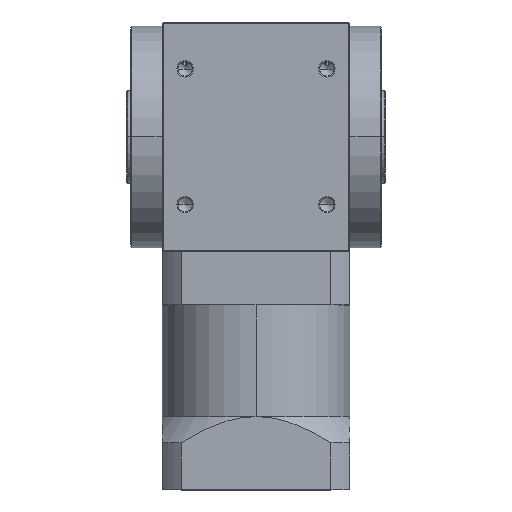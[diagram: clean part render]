
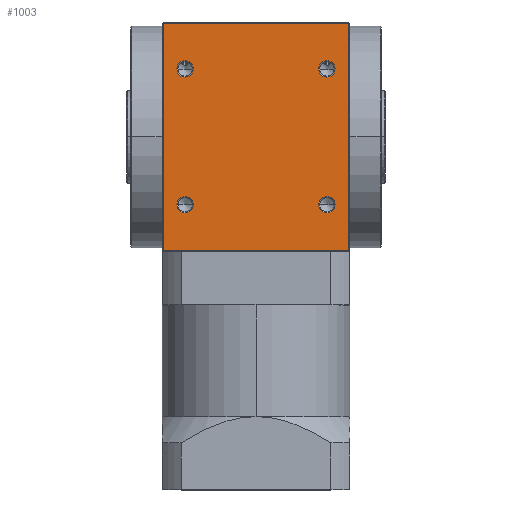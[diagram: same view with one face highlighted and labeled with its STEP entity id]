
A CAD part, top view. The second image highlights one B-rep face of the part: STEP entity #1003.
In plain terms, the highlighted planar face has unit normal (0, 0, 1).
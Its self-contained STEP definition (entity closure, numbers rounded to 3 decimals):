
#23 = VECTOR ( 'NONE', #4695, 1000. ) ;
#41 = VERTEX_POINT ( 'NONE', #1899 ) ;
#73 = VERTEX_POINT ( 'NONE', #2977 ) ;
#123 = EDGE_CURVE ( 'NONE', #4324, #7314, #9084, .T. ) ;
#153 = DIRECTION ( 'NONE',  ( 0., -1., 0. ) ) ;
#209 = EDGE_CURVE ( 'NONE', #7691, #73, #7975, .T. ) ;
#214 = DIRECTION ( 'NONE',  ( 1., 0., 0. ) ) ;
#330 = CARTESIAN_POINT ( 'NONE',  ( -34., -32.5, 55. ) ) ;
#460 = DIRECTION ( 'NONE',  ( 0., 0., 1. ) ) ;
#467 = DIRECTION ( 'NONE',  ( 1., 0., 0. ) ) ;
#655 = ORIENTED_EDGE ( 'NONE', *, *, #8178, .F. ) ;
#719 = ORIENTED_EDGE ( 'NONE', *, *, #209, .F. ) ;
#859 = ORIENTED_EDGE ( 'NONE', *, *, #7412, .F. ) ;
#888 = CARTESIAN_POINT ( 'NONE',  ( -34., 32.5, 55. ) ) ;
#1003 = ADVANCED_FACE ( 'NONE', ( #2971, #4887, #6765, #1088, #8411 ), #4355, .F. ) ;
#1057 = DIRECTION ( 'NONE',  ( 1., 0., 0. ) ) ;
#1088 = FACE_BOUND ( 'NONE', #8006, .T. ) ;
#1091 = DIRECTION ( 'NONE',  ( 0., 0., 1. ) ) ;
#1128 = EDGE_LOOP ( 'NONE', ( #2319, #4685 ) ) ;
#1149 = CIRCLE ( 'NONE', #8286, 3.9 ) ;
#1589 = DIRECTION ( 'NONE',  ( 1., 0., 0. ) ) ;
#1665 = AXIS2_PLACEMENT_3D ( 'NONE', #8975, #4763, #467 ) ;
#1680 = DIRECTION ( 'NONE',  ( 1., 0., 0. ) ) ;
#1725 = DIRECTION ( 'NONE',  ( 0., 0., 1. ) ) ;
#1833 = AXIS2_PLACEMENT_3D ( 'NONE', #3665, #8616, #4383 ) ;
#1899 = CARTESIAN_POINT ( 'NONE',  ( -37.9, -32.5, 55. ) ) ;
#1981 = AXIS2_PLACEMENT_3D ( 'NONE', #6180, #460, #214 ) ;
#2123 = ORIENTED_EDGE ( 'NONE', *, *, #3428, .F. ) ;
#2132 = CARTESIAN_POINT ( 'NONE',  ( -37.9, 32.5, 55. ) ) ;
#2209 = EDGE_LOOP ( 'NONE', ( #6207, #2123 ) ) ;
#2318 = ORIENTED_EDGE ( 'NONE', *, *, #4358, .T. ) ;
#2319 = ORIENTED_EDGE ( 'NONE', *, *, #8935, .F. ) ;
#2385 = CARTESIAN_POINT ( 'NONE',  ( 37.9, 32.5, 55. ) ) ;
#2673 = DIRECTION ( 'NONE',  ( 1., 0., 0. ) ) ;
#2845 = CIRCLE ( 'NONE', #8784, 3.9 ) ;
#2947 = CARTESIAN_POINT ( 'NONE',  ( 34., -36.4, 55. ) ) ;
#2971 = FACE_OUTER_BOUND ( 'NONE', #7307, .T. ) ;
#2977 = CARTESIAN_POINT ( 'NONE',  ( 30.1, 32.5, 55. ) ) ;
#3001 = VERTEX_POINT ( 'NONE', #3925 ) ;
#3175 = VERTEX_POINT ( 'NONE', #8462 ) ;
#3186 = VERTEX_POINT ( 'NONE', #2132 ) ;
#3222 = ORIENTED_EDGE ( 'NONE', *, *, #7753, .F. ) ;
#3330 = ORIENTED_EDGE ( 'NONE', *, *, #3346, .F. ) ;
#3346 = EDGE_CURVE ( 'NONE', #4757, #6475, #8845, .T. ) ;
#3415 = VECTOR ( 'NONE', #6587, 1000. ) ;
#3428 = EDGE_CURVE ( 'NONE', #3186, #3001, #2845, .T. ) ;
#3665 = CARTESIAN_POINT ( 'NONE',  ( 45., 55., 55. ) ) ;
#3814 = CARTESIAN_POINT ( 'NONE',  ( 34., 32.5, 55. ) ) ;
#3821 = LINE ( 'NONE', #8902, #23 ) ;
#3872 = EDGE_CURVE ( 'NONE', #3001, #3186, #8295, .T. ) ;
#3925 = CARTESIAN_POINT ( 'NONE',  ( -30.1, 32.5, 55. ) ) ;
#4279 = CIRCLE ( 'NONE', #1665, 3.9 ) ;
#4324 = VERTEX_POINT ( 'NONE', #5223 ) ;
#4355 = PLANE ( 'NONE',  #1833 ) ;
#4358 = EDGE_CURVE ( 'NONE', #4324, #8526, #9026, .T. ) ;
#4383 = DIRECTION ( 'NONE',  ( 0., 1., 0. ) ) ;
#4393 = EDGE_LOOP ( 'NONE', ( #719, #655 ) ) ;
#4447 = DIRECTION ( 'NONE',  ( 0., 0., 1. ) ) ;
#4558 = DIRECTION ( 'NONE',  ( 1., 0., 0. ) ) ;
#4685 = ORIENTED_EDGE ( 'NONE', *, *, #7721, .F. ) ;
#4695 = DIRECTION ( 'NONE',  ( 0., -1., 0. ) ) ;
#4757 = VERTEX_POINT ( 'NONE', #2947 ) ;
#4763 = DIRECTION ( 'NONE',  ( 0., 0., 1. ) ) ;
#4887 = FACE_BOUND ( 'NONE', #2209, .T. ) ;
#5223 = CARTESIAN_POINT ( 'NONE',  ( -44.5, -54.5, 55. ) ) ;
#5251 = CARTESIAN_POINT ( 'NONE',  ( 45., -54.5, 55. ) ) ;
#5339 = DIRECTION ( 'NONE',  ( 0., 0., 1. ) ) ;
#5369 = CARTESIAN_POINT ( 'NONE',  ( 34., -32.5, 55. ) ) ;
#5403 = LINE ( 'NONE', #7645, #7271 ) ;
#5404 = CARTESIAN_POINT ( 'NONE',  ( -44.5, 54.5, 55. ) ) ;
#5409 = AXIS2_PLACEMENT_3D ( 'NONE', #3814, #8771, #4558 ) ;
#5835 = ORIENTED_EDGE ( 'NONE', *, *, #7261, .F. ) ;
#5890 = DIRECTION ( 'NONE',  ( 0., 0., 1. ) ) ;
#6013 = CARTESIAN_POINT ( 'NONE',  ( -34., 32.5, 55. ) ) ;
#6080 = DIRECTION ( 'NONE',  ( 0., -1., 0. ) ) ;
#6180 = CARTESIAN_POINT ( 'NONE',  ( 34., 32.5, 55. ) ) ;
#6201 = AXIS2_PLACEMENT_3D ( 'NONE', #888, #5890, #1589 ) ;
#6207 = ORIENTED_EDGE ( 'NONE', *, *, #3872, .F. ) ;
#6475 = VERTEX_POINT ( 'NONE', #7173 ) ;
#6576 = CARTESIAN_POINT ( 'NONE',  ( 44.5, -54.5, 55. ) ) ;
#6587 = DIRECTION ( 'NONE',  ( 0., 1., 0. ) ) ;
#6709 = DIRECTION ( 'NONE',  ( 1., 0., 0. ) ) ;
#6765 = FACE_BOUND ( 'NONE', #4393, .T. ) ;
#7164 = VECTOR ( 'NONE', #1680, 1000. ) ;
#7173 = CARTESIAN_POINT ( 'NONE',  ( 34., -28.6, 55. ) ) ;
#7261 = EDGE_CURVE ( 'NONE', #7684, #8526, #3821, .T. ) ;
#7271 = VECTOR ( 'NONE', #2673, 1000. ) ;
#7307 = EDGE_LOOP ( 'NONE', ( #5835, #859, #7312, #2318 ) ) ;
#7312 = ORIENTED_EDGE ( 'NONE', *, *, #123, .F. ) ;
#7314 = VERTEX_POINT ( 'NONE', #5404 ) ;
#7412 = EDGE_CURVE ( 'NONE', #7314, #7684, #5403, .T. ) ;
#7645 = CARTESIAN_POINT ( 'NONE',  ( 45., 54.5, 55. ) ) ;
#7684 = VERTEX_POINT ( 'NONE', #8045 ) ;
#7691 = VERTEX_POINT ( 'NONE', #2385 ) ;
#7697 = CIRCLE ( 'NONE', #5409, 3.9 ) ;
#7721 = EDGE_CURVE ( 'NONE', #41, #3175, #8475, .T. ) ;
#7753 = EDGE_CURVE ( 'NONE', #6475, #4757, #1149, .T. ) ;
#7975 = CIRCLE ( 'NONE', #1981, 3.9 ) ;
#8006 = EDGE_LOOP ( 'NONE', ( #3330, #3222 ) ) ;
#8010 = CARTESIAN_POINT ( 'NONE',  ( -44.5, 55., 55. ) ) ;
#8017 = AXIS2_PLACEMENT_3D ( 'NONE', #8677, #4447, #153 ) ;
#8045 = CARTESIAN_POINT ( 'NONE',  ( 44.5, 54.5, 55. ) ) ;
#8178 = EDGE_CURVE ( 'NONE', #73, #7691, #7697, .T. ) ;
#8286 = AXIS2_PLACEMENT_3D ( 'NONE', #5369, #1091, #6080 ) ;
#8295 = CIRCLE ( 'NONE', #6201, 3.9 ) ;
#8411 = FACE_BOUND ( 'NONE', #1128, .T. ) ;
#8462 = CARTESIAN_POINT ( 'NONE',  ( -30.1, -32.5, 55. ) ) ;
#8475 = CIRCLE ( 'NONE', #8753, 3.9 ) ;
#8526 = VERTEX_POINT ( 'NONE', #6576 ) ;
#8616 = DIRECTION ( 'NONE',  ( 0., 0., -1. ) ) ;
#8677 = CARTESIAN_POINT ( 'NONE',  ( 34., -32.5, 55. ) ) ;
#8753 = AXIS2_PLACEMENT_3D ( 'NONE', #330, #5339, #1057 ) ;
#8771 = DIRECTION ( 'NONE',  ( 0., 0., 1. ) ) ;
#8784 = AXIS2_PLACEMENT_3D ( 'NONE', #6013, #1725, #6709 ) ;
#8845 = CIRCLE ( 'NONE', #8017, 3.9 ) ;
#8902 = CARTESIAN_POINT ( 'NONE',  ( 44.5, 55., 55. ) ) ;
#8935 = EDGE_CURVE ( 'NONE', #3175, #41, #4279, .T. ) ;
#8975 = CARTESIAN_POINT ( 'NONE',  ( -34., -32.5, 55. ) ) ;
#9026 = LINE ( 'NONE', #5251, #7164 ) ;
#9084 = LINE ( 'NONE', #8010, #3415 ) ;
